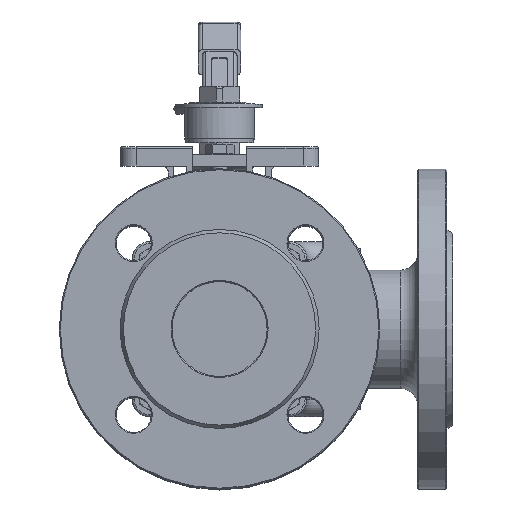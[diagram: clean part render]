
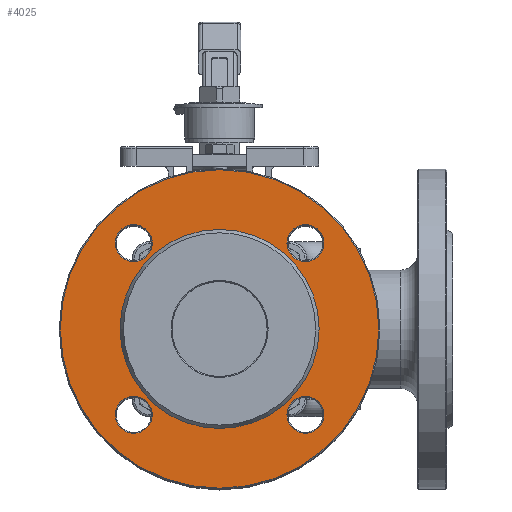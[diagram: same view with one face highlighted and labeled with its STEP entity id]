
A CAD part, top view. The second image highlights one B-rep face of the part: STEP entity #4025.
In plain terms, the highlighted planar face has unit normal (0, 0, 1).
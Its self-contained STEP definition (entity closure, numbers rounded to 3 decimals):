
#4025=ADVANCED_FACE('',(#11726,#11728,#11730,#11732,#11734,#11736),#11738,.T.);
#11726=FACE_BOUND('',#11727,.T.);
#11727=EDGE_LOOP('',(#17512));
#11728=FACE_BOUND('',#11729,.T.);
#11729=EDGE_LOOP('',(#17513));
#11730=FACE_BOUND('',#11731,.T.);
#11731=EDGE_LOOP('',(#17514));
#11732=FACE_BOUND('',#11733,.T.);
#11733=EDGE_LOOP('',(#17515));
#11734=FACE_BOUND('',#11735,.T.);
#11735=EDGE_LOOP('',(#17516));
#11736=FACE_BOUND('',#11737,.T.);
#11737=EDGE_LOOP('',(#17517));
#11738=PLANE('',#11739);
#11739=AXIS2_PLACEMENT_3D('',#11740,#11741,#11742);
#11740=CARTESIAN_POINT('',(0.,0.,117.));
#11741=DIRECTION('',(0.,0.,1.));
#11742=DIRECTION('',(1.,0.,0.));
#17512=ORIENTED_EDGE('',*,*,#20300,.F.);
#17513=ORIENTED_EDGE('',*,*,#20205,.F.);
#17514=ORIENTED_EDGE('',*,*,#20203,.F.);
#17515=ORIENTED_EDGE('',*,*,#20301,.F.);
#17516=ORIENTED_EDGE('',*,*,#20204,.F.);
#17517=ORIENTED_EDGE('',*,*,#20202,.F.);
#20202=EDGE_CURVE('',#23360,#23360,#23361,.T.);
#20203=EDGE_CURVE('',#23362,#23362,#23363,.T.);
#20204=EDGE_CURVE('',#23364,#23364,#23365,.T.);
#20205=EDGE_CURVE('',#23366,#23366,#23367,.T.);
#20300=EDGE_CURVE('',#23516,#23516,#23517,.T.);
#20301=EDGE_CURVE('',#23518,#23518,#23519,.T.);
#23360=VERTEX_POINT('',#38027);
#23361=CIRCLE('',#38028,9.5);
#23362=VERTEX_POINT('',#38032);
#23363=CIRCLE('',#38033,9.5);
#23364=VERTEX_POINT('',#38037);
#23365=CIRCLE('',#38038,9.5);
#23366=VERTEX_POINT('',#38042);
#23367=CIRCLE('',#38043,9.5);
#23516=VERTEX_POINT('',#38696);
#23517=CIRCLE('',#38697,82.);
#23518=VERTEX_POINT('',#38701);
#23519=CIRCLE('',#38702,51.232);
#38027=CARTESIAN_POINT('',(-34.694,-44.194,117.));
#38028=AXIS2_PLACEMENT_3D('',#38029,#38030,#38031);
#38029=CARTESIAN_POINT('',(-44.194,-44.194,117.));
#38030=DIRECTION('',(0.,0.,1.));
#38031=DIRECTION('',(1.,0.,0.));
#38032=CARTESIAN_POINT('',(-34.694,44.194,117.));
#38033=AXIS2_PLACEMENT_3D('',#38034,#38035,#38036);
#38034=CARTESIAN_POINT('',(-44.194,44.194,117.));
#38035=DIRECTION('',(0.,0.,1.));
#38036=DIRECTION('',(1.,0.,0.));
#38037=CARTESIAN_POINT('',(53.694,44.194,117.));
#38038=AXIS2_PLACEMENT_3D('',#38039,#38040,#38041);
#38039=CARTESIAN_POINT('',(44.194,44.194,117.));
#38040=DIRECTION('',(0.,0.,1.));
#38041=DIRECTION('',(1.,0.,0.));
#38042=CARTESIAN_POINT('',(53.694,-44.194,117.));
#38043=AXIS2_PLACEMENT_3D('',#38044,#38045,#38046);
#38044=CARTESIAN_POINT('',(44.194,-44.194,117.));
#38045=DIRECTION('',(0.,0.,1.));
#38046=DIRECTION('',(1.,0.,0.));
#38696=CARTESIAN_POINT('',(82.,0.,117.));
#38697=AXIS2_PLACEMENT_3D('',#38698,#38699,#38700);
#38698=CARTESIAN_POINT('',(0.,0.,117.));
#38699=DIRECTION('',(0.,0.,-1.));
#38700=DIRECTION('',(1.,0.,0.));
#38701=CARTESIAN_POINT('',(51.232,0.,117.));
#38702=AXIS2_PLACEMENT_3D('',#38703,#38704,#38705);
#38703=CARTESIAN_POINT('',(0.,0.,117.));
#38704=DIRECTION('',(0.,0.,1.));
#38705=DIRECTION('',(1.,0.,0.));
